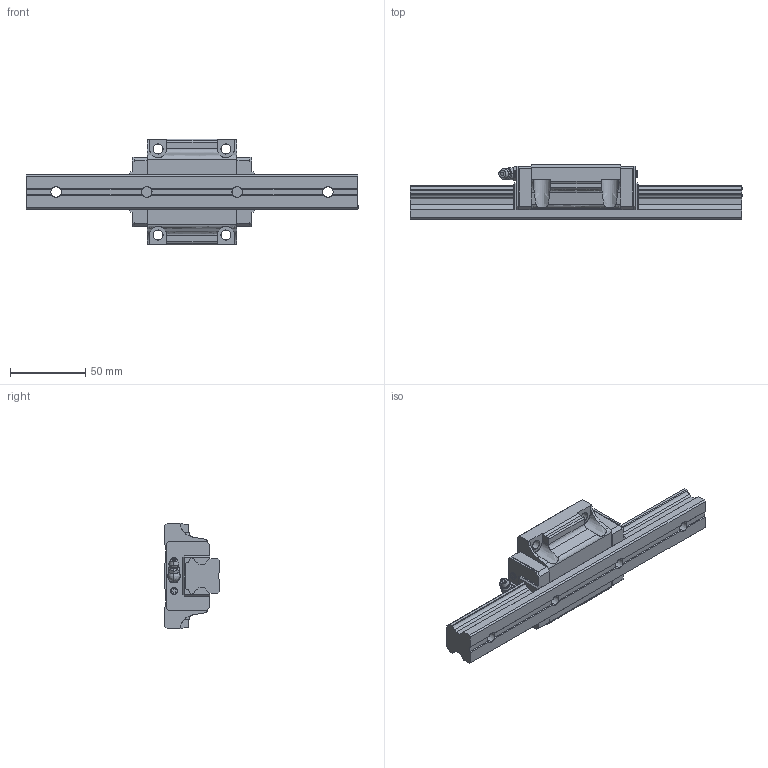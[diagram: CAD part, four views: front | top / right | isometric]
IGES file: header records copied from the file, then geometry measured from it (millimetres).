
Start section: SolidWorks IGES file using analytic representation for surfaces
Global section: file name: D:\Qsync\EOS Design B.V\Projecten\LM Systems\Models HSV\FINISHED\HSV25CSS.IGS; native system: SolidWorks 2016; preprocessor: SolidWorks 2016; author: EOS; date: 160314.144423; units: millimetre
Bounding box: 220 x 36 x 70 mm (x, y, z)
Surface area: 45444.4 mm2 (no closed solid volume)
Topology: 0 solids, 0 shells, 333 faces, 3614 edges, 3606 vertices
Faces by surface type: bspline 241, revolution 92
